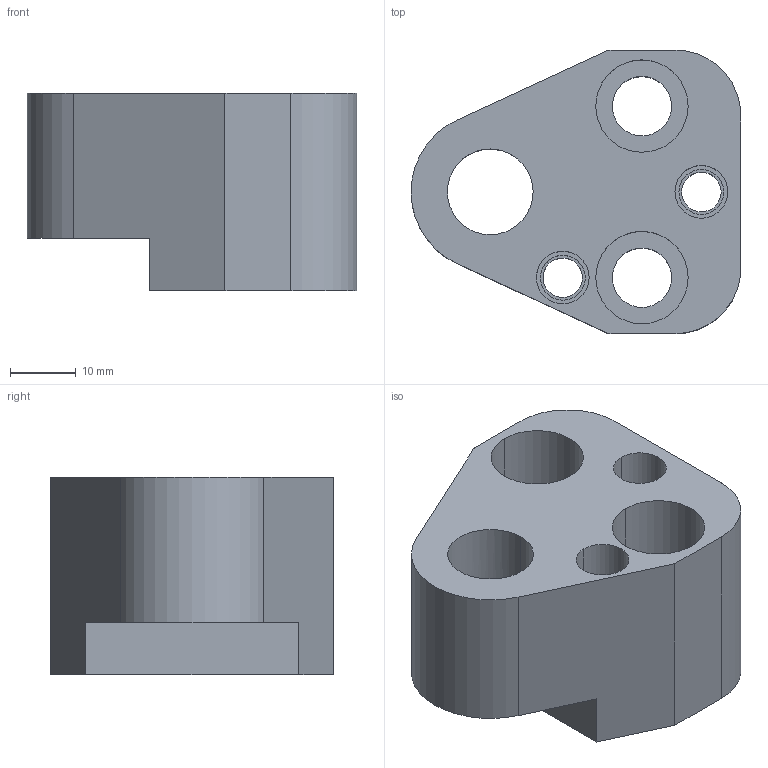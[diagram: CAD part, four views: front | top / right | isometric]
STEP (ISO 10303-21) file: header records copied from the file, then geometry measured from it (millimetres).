
FILE_DESCRIPTION(/* description */ (''),/* implementation_level */ '2;1');
FILE_NAME(/* name */ '3d_fp-fn13_03771_r00.stp',/* time_stamp */ '2011-01-10T14:15:36+09:00',/* author */ ('MISUMI'),/* organization */ (''),/* preprocessor_version */ 'ST-DEVELOPER v11',/* originating_system */ 'UGS - NX 5.0',/* authorisation */ '');
FILE_SCHEMA (('CONFIG_CONTROL_DESIGN'));
Length unit declared in the file: millimetre
Products named in the file (1): 3d_fp-fn13_03771_r00
Bounding box: 50 x 43 x 30 mm (x, y, z)
Volume: 35770.7 mm3; surface area: 11348.3 mm2
Topology: 1 solids, 1 shells, 42 faces, 104 edges, 69 vertices
Faces by surface type: cylinder 25, plane 15, cone 2
Entity records: 1382 total; most frequent: DIRECTION 242, CARTESIAN_POINT 221, ORIENTED_EDGE 208, EDGE_CURVE 104, AXIS2_PLACEMENT_3D 96, VERTEX_POINT 69, EDGE_LOOP 57, CIRCLE 53
